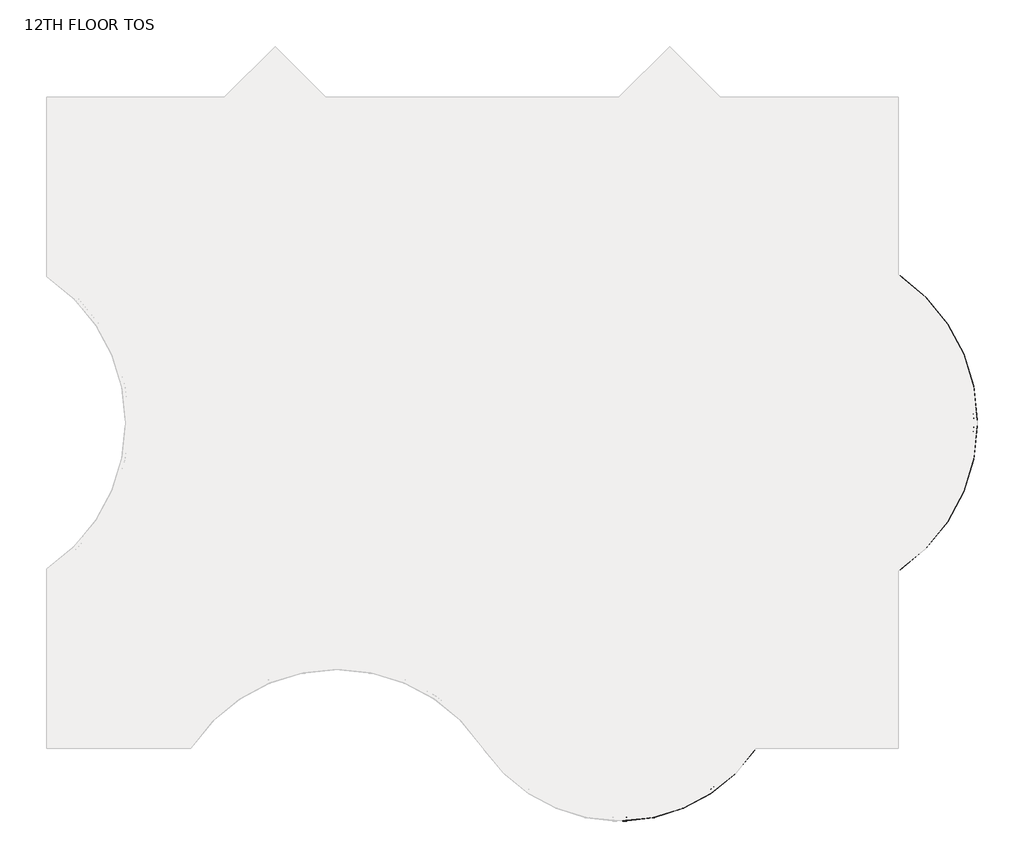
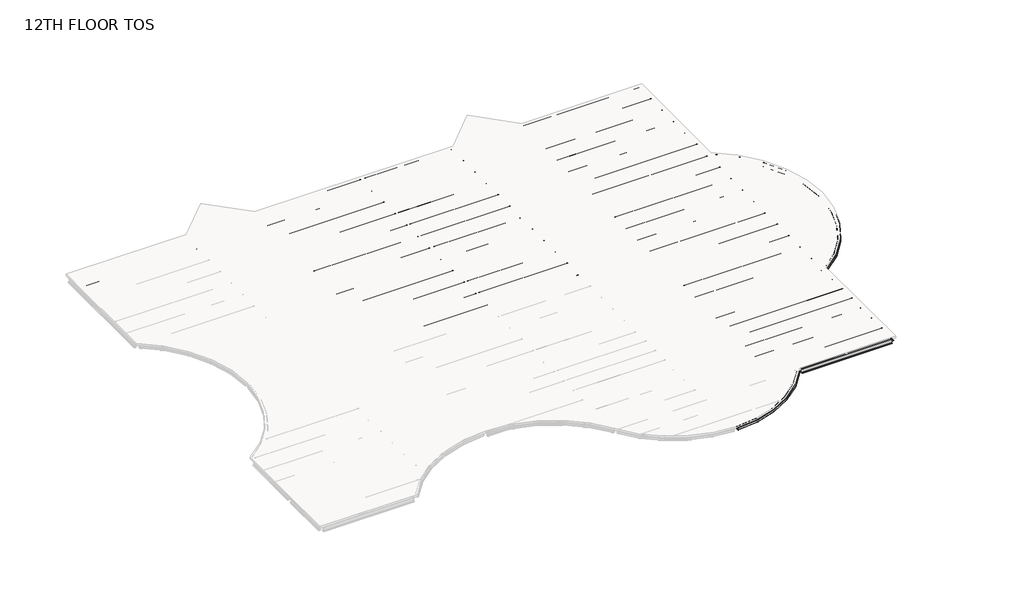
# One storey, part 2 of 2: 110 beams.
"""IFC4 building model written with IfcOpenShell, lengths in millimetres."""

from ifc_helpers import new_model, si_unit, origin, place, context, project, spatial, transform, mapped, element, save
from components import m_hss_square_hss203_2x203_2x9_5_28e91a4e, m_hss_square_hss203_2x203_2x9_5_f31329aa, m_hss_square_hss203_2x203_2x9_5_63507dff, ub_universal_beams_ub254x102x28_7812688d, ub_universal_beams_ub254x102x28_4a38c177, ub_universal_beams_ub305x165x40_c4d0385b, ub_universal_beams_ub305x165x40_19965e16, ub_universal_beams_ub305x165x40_d3abc31d, ub_universal_beams_ub305x165x40_0c73730f, ub_universal_beams_ub305x165x40_2a963f0c, ub_universal_beams_ub305x165x40_9ce7f2ee, ub_universal_beams_ub305x165x40_d184adfd, ub_universal_beams_ub305x165x40_bc7dc938, ub_universal_beams_ub305x165x40_b4233d25, ub_universal_beams_ub356x171x51_c708c058, ub_universal_beams_ub356x171x51_ef72dcdd, ub_universal_beams_ub356x171x51_10b3c54f, ub_universal_beams_ub356x171x51_4c9fd821, ub_universal_beams_ub356x171x51_d1a87c3c, ub_universal_beams_ub356x171x51_fa75724b, ub_universal_beams_ub356x171x51_68db896e, ub_universal_beams_ub356x171x51_c634c4a6, ub_universal_beams_ub356x171x51_995f1560, ub_universal_beams_ub356x171x51_dfc36663, ub_universal_beams_ub356x171x51_11d6b780, ub_universal_beams_ub356x171x51_76b2d20b, ub_universal_beams_ub356x171x51_145ecd4b, ub_universal_beams_ub356x171x51_c7dff8d2, ub_universal_beams_ub356x171x51_8a345439, ub_universal_beams_ub356x171x51_6da510e9, ub_universal_beams_ub356x171x51_e97f8d2e, ub_universal_beams_ub356x171x51_a38b99de, ub_universal_beams_ub356x171x51_d8f4cdde, ub_universal_beams_ub356x171x51_475301e6, ub_universal_beams_ub356x171x51_c03c70fb, ub_universal_beams_ub356x171x51_741bae58

model = new_model("IFC4")

# Units and contexts
model_context = context("Model", 3, world=origin())
ifc_project = project(units=[si_unit("LENGTHUNIT", "METRE", prefix="MILLI")], contexts=[model_context])

# Site, building, storey
site = spatial("IfcSite", under=ifc_project)
building = spatial("IfcBuilding", under=site)
storey = spatial("IfcBuildingStorey", under=building, Name="12TH FLOOR TOS", Elevation=54711.6)

# Beams
placement = place(None, origin())
m_hss_square_hss203_2x203_2x9_5_shape = m_hss_square_hss203_2x203_2x9_5_28e91a4e(model_context)
element("IfcBeam", 1, ObjectType="M_HSS Square : HSS203.2X203.2X9.5", at=placement, inside=storey, context=model_context, shape_type="MappedRepresentation", body=[
    mapped(m_hss_square_hss203_2x203_2x9_5_shape, transform((44027.575, 24539.575, 54610.1), x_axis=(0.8332810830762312, -0.5528495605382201, 0.0), y_axis=(0.5528495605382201, 0.8332810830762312, 0.0), z_axis=(0.0, 0.0, 1.0))),
])
m_hss_square_hss203_2x203_2x9_5_2_shape = m_hss_square_hss203_2x203_2x9_5_f31329aa(model_context)
element("IfcBeam", 2, ObjectType="M_HSS Square : HSS203.2X203.2X9.5", at=placement, inside=storey, context=model_context, shape_type="MappedRepresentation", body=[
    mapped(m_hss_square_hss203_2x203_2x9_5_2_shape, transform((44027.575, 9299.575, 54610.1), x_axis=(0.8332810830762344, 0.5528495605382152, 0.0), y_axis=(-0.5528495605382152, 0.8332810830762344, 0.0), z_axis=(0.0, 0.0, 1.0))),
])
m_hss_square_hss203_2x203_2x9_5_3_shape = m_hss_square_hss203_2x203_2x9_5_63507dff(model_context)
element("IfcBeam", 3, ObjectType="M_HSS Square : HSS203.2X203.2X9.5", at=placement, inside=storey, context=model_context, shape_type="MappedRepresentation", body=[
    mapped(m_hss_square_hss203_2x203_2x9_5_3_shape, transform((36716.575, 155.575, 54610.1), x_axis=(-0.5530174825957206, -0.8331696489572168, 0.0), y_axis=(0.8331696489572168, -0.5530174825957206, 0.0), z_axis=(0.0, 0.0, 1.0))),
])
ub_universal_beams_ub254x102x28_shape = ub_universal_beams_ub254x102x28_7812688d(model_context)
element("IfcBeam", 4, ObjectType="UB-Universal Beams : UB254x102x28", at=placement, inside=storey, context=model_context, shape_type="MappedRepresentation", body=[
    mapped(ub_universal_beams_ub254x102x28_shape, transform((10592.575, 34976.575, 54581.4), x_axis=(0.7071067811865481, 0.7071067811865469, 0.0), y_axis=(-0.7071067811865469, 0.7071067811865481, 0.0), z_axis=(0.0, 0.0, 1.0))),
])
element("IfcBeam", 5, ObjectType="UB-Universal Beams : UB254x102x28", at=placement, inside=storey, context=model_context, shape_type="MappedRepresentation", body=[
    mapped(ub_universal_beams_ub254x102x28_shape, transform((31004.575, 34976.575, 54581.4), x_axis=(0.7071067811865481, 0.7071067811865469, 0.0), y_axis=(-0.7071067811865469, 0.7071067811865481, 0.0), z_axis=(0.0, 0.0, 1.0))),
])
ub_universal_beams_ub254x102x28_2_shape = ub_universal_beams_ub254x102x28_4a38c177(model_context)
element("IfcBeam", 6, ObjectType="UB-Universal Beams : UB254x102x28", at=placement, inside=storey, context=model_context, shape_type="MappedRepresentation", body=[
    mapped(ub_universal_beams_ub254x102x28_2_shape, transform((13178.575, 34976.575, 54581.4), x_axis=(0.707106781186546, -0.707106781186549, 0.0), y_axis=(0.707106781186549, 0.707106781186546, 0.0), z_axis=(0.0, 0.0, 1.0))),
])
element("IfcBeam", 7, ObjectType="UB-Universal Beams : UB254x102x28", at=placement, inside=storey, context=model_context, shape_type="MappedRepresentation", body=[
    mapped(ub_universal_beams_ub254x102x28_2_shape, transform((33590.575, 34976.575, 54581.4), x_axis=(0.7071067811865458, -0.7071067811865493, 0.0), y_axis=(0.7071067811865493, 0.7071067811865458, 0.0), z_axis=(0.0, 0.0, 1.0))),
])
ub_universal_beams_ub305x165x40_shape = ub_universal_beams_ub305x165x40_c4d0385b(model_context)
element("IfcBeam", 8, ObjectType="UB-Universal Beams : UB305x165x40", at=placement, inside=storey, context=model_context, shape_type="MappedRepresentation", body=[
    mapped(ub_universal_beams_ub305x165x40_shape, transform((4727.575, 32159.575, 54559.9), x_axis=(1.0, 0.0, 0.0), y_axis=(0.0, 1.0, 0.0), z_axis=(0.0, 0.0, 1.0))),
])
element("IfcBeam", 9, ObjectType="UB-Universal Beams : UB305x165x40", at=placement, inside=storey, context=model_context, shape_type="MappedRepresentation", body=[
    mapped(ub_universal_beams_ub305x165x40_shape, transform((39455.575, 32159.575, 54559.9), x_axis=(1.0, 0.0, 0.0), y_axis=(0.0, 1.0, 0.0), z_axis=(0.0, 0.0, 1.0))),
])
element("IfcBeam", 10, ObjectType="UB-Universal Beams : UB305x165x40", at=placement, inside=storey, context=model_context, shape_type="MappedRepresentation", body=[
    mapped(ub_universal_beams_ub305x165x40_shape, transform((39455.575, 30635.575, 54559.9), x_axis=(1.0, 0.0, 0.0), y_axis=(0.0, 1.0, 0.0), z_axis=(0.0, 0.0, 1.0))),
])
element("IfcBeam", 11, ObjectType="UB-Universal Beams : UB305x165x40", at=placement, inside=storey, context=model_context, shape_type="MappedRepresentation", body=[
    mapped(ub_universal_beams_ub305x165x40_shape, transform((39455.575, 29111.575, 54559.9), x_axis=(1.0, 0.0, 0.0), y_axis=(0.0, 1.0, 0.0), z_axis=(0.0, 0.0, 1.0))),
])
element("IfcBeam", 12, ObjectType="UB-Universal Beams : UB305x165x40", at=placement, inside=storey, context=model_context, shape_type="MappedRepresentation", body=[
    mapped(ub_universal_beams_ub305x165x40_shape, transform((39455.575, 27587.575, 54559.9), x_axis=(1.0, 0.0, 0.0), y_axis=(0.0, 1.0, 0.0), z_axis=(0.0, 0.0, 1.0))),
])
element("IfcBeam", 13, ObjectType="UB-Universal Beams : UB305x165x40", at=placement, inside=storey, context=model_context, shape_type="MappedRepresentation", body=[
    mapped(ub_universal_beams_ub305x165x40_shape, transform((39455.575, 26063.575, 54559.9), x_axis=(1.0, 0.0, 0.0), y_axis=(0.0, 1.0, 0.0), z_axis=(0.0, 0.0, 1.0))),
])
element("IfcBeam", 14, ObjectType="UB-Universal Beams : UB305x165x40", at=placement, inside=storey, context=model_context, shape_type="MappedRepresentation", body=[
    mapped(ub_universal_beams_ub305x165x40_shape, transform((39455.575, 23015.575, 54559.9), x_axis=(1.0, 0.0, 0.0), y_axis=(0.0, 1.0, 0.0), z_axis=(0.0, 0.0, 1.0))),
])
element("IfcBeam", 15, ObjectType="UB-Universal Beams : UB305x165x40", at=placement, inside=storey, context=model_context, shape_type="MappedRepresentation", body=[
    mapped(ub_universal_beams_ub305x165x40_shape, transform((39455.575, 21491.575, 54559.9), x_axis=(1.0, 0.0, 0.0), y_axis=(0.0, 1.0, 0.0), z_axis=(0.0, 0.0, 1.0))),
])
element("IfcBeam", 16, ObjectType="UB-Universal Beams : UB305x165x40", at=placement, inside=storey, context=model_context, shape_type="MappedRepresentation", body=[
    mapped(ub_universal_beams_ub305x165x40_shape, transform((39455.575, 19967.575, 54559.9), x_axis=(1.0, 0.0, 0.0), y_axis=(0.0, 1.0, 0.0), z_axis=(0.0, 0.0, 1.0))),
])
element("IfcBeam", 17, ObjectType="UB-Universal Beams : UB305x165x40", at=placement, inside=storey, context=model_context, shape_type="MappedRepresentation", body=[
    mapped(ub_universal_beams_ub305x165x40_shape, transform((39455.575, 18443.575, 54559.9), x_axis=(1.0, 0.0, 0.0), y_axis=(0.0, 1.0, 0.0), z_axis=(0.0, 0.0, 1.0))),
])
element("IfcBeam", 18, ObjectType="UB-Universal Beams : UB305x165x40", at=placement, inside=storey, context=model_context, shape_type="MappedRepresentation", body=[
    mapped(ub_universal_beams_ub305x165x40_shape, transform((39455.575, 15395.575, 54559.9), x_axis=(1.0, 0.0, 0.0), y_axis=(0.0, 1.0, 0.0), z_axis=(0.0, 0.0, 1.0))),
])
element("IfcBeam", 19, ObjectType="UB-Universal Beams : UB305x165x40", at=placement, inside=storey, context=model_context, shape_type="MappedRepresentation", body=[
    mapped(ub_universal_beams_ub305x165x40_shape, transform((39455.575, 13871.575, 54559.9), x_axis=(1.0, 0.0, 0.0), y_axis=(0.0, 1.0, 0.0), z_axis=(0.0, 0.0, 1.0))),
])
element("IfcBeam", 20, ObjectType="UB-Universal Beams : UB305x165x40", at=placement, inside=storey, context=model_context, shape_type="MappedRepresentation", body=[
    mapped(ub_universal_beams_ub305x165x40_shape, transform((39455.575, 12347.575, 54559.9), x_axis=(1.0, 0.0, 0.0), y_axis=(0.0, 1.0, 0.0), z_axis=(0.0, 0.0, 1.0))),
])
element("IfcBeam", 21, ObjectType="UB-Universal Beams : UB305x165x40", at=placement, inside=storey, context=model_context, shape_type="MappedRepresentation", body=[
    mapped(ub_universal_beams_ub305x165x40_shape, transform((39455.575, 10823.575, 54559.9), x_axis=(1.0, 0.0, 0.0), y_axis=(0.0, 1.0, 0.0), z_axis=(0.0, 0.0, 1.0))),
])
element("IfcBeam", 22, ObjectType="UB-Universal Beams : UB305x165x40", at=placement, inside=storey, context=model_context, shape_type="MappedRepresentation", body=[
    mapped(ub_universal_beams_ub305x165x40_shape, transform((39455.575, 5508.325, 54559.9), x_axis=(-1.0, 0.0, 0.0), y_axis=(0.0, -1.0, 0.0), z_axis=(0.0, 0.0, 1.0))),
])
element("IfcBeam", 23, ObjectType="UB-Universal Beams : UB305x165x40", at=placement, inside=storey, context=model_context, shape_type="MappedRepresentation", body=[
    mapped(ub_universal_beams_ub305x165x40_shape, transform((39455.575, 6772.075, 54559.9), x_axis=(-1.0, 0.0, 0.0), y_axis=(0.0, -1.0, 0.0), z_axis=(0.0, 0.0, 1.0))),
])
element("IfcBeam", 24, ObjectType="UB-Universal Beams : UB305x165x40", at=placement, inside=storey, context=model_context, shape_type="MappedRepresentation", body=[
    mapped(ub_universal_beams_ub305x165x40_shape, transform((39455.575, 8035.825, 54559.9), x_axis=(-1.0, 0.0, 0.0), y_axis=(0.0, -1.0, 0.0), z_axis=(0.0, 0.0, 1.0))),
])
element("IfcBeam", 25, ObjectType="UB-Universal Beams : UB305x165x40", at=placement, inside=storey, context=model_context, shape_type="MappedRepresentation", body=[
    mapped(ub_universal_beams_ub305x165x40_shape, transform((39455.575, 1518.575, 54559.9), x_axis=(-1.0, 0.0, 0.0), y_axis=(0.0, -1.0, 0.0), z_axis=(0.0, 0.0, 1.0))),
])
element("IfcBeam", 26, ObjectType="UB-Universal Beams : UB305x165x40", at=placement, inside=storey, context=model_context, shape_type="MappedRepresentation", body=[
    mapped(ub_universal_beams_ub305x165x40_shape, transform((39455.575, 2881.575, 54559.9), x_axis=(-1.0, 0.0, 0.0), y_axis=(0.0, -1.0, 0.0), z_axis=(0.0, 0.0, 1.0))),
])
ub_universal_beams_ub305x165x40_2_shape = ub_universal_beams_ub305x165x40_19965e16(model_context)
element("IfcBeam", 27, ObjectType="UB-Universal Beams : UB305x165x40", at=placement, inside=storey, context=model_context, shape_type="MappedRepresentation", body=[
    mapped(ub_universal_beams_ub305x165x40_2_shape, transform((11885.575, 34803.325, 54559.9), x_axis=(1.0, 0.0, 0.0), y_axis=(0.0, 1.0, 0.0), z_axis=(0.0, 0.0, 1.0))),
])
element("IfcBeam", 28, ObjectType="UB-Universal Beams : UB305x165x40", at=placement, inside=storey, context=model_context, shape_type="MappedRepresentation", body=[
    mapped(ub_universal_beams_ub305x165x40_2_shape, transform((32297.575, 34803.325, 54559.9), x_axis=(1.0, 0.0, 0.0), y_axis=(0.0, 1.0, 0.0), z_axis=(0.0, 0.0, 1.0))),
])
ub_universal_beams_ub305x165x40_3_shape = ub_universal_beams_ub305x165x40_d3abc31d(model_context)
element("IfcBeam", 29, ObjectType="UB-Universal Beams : UB305x165x40", at=placement, inside=storey, context=model_context, shape_type="MappedRepresentation", body=[
    mapped(ub_universal_beams_ub305x165x40_3_shape, transform((11885.575, 33337.075, 54559.9), x_axis=(1.0, 0.0, 0.0), y_axis=(0.0, 1.0, 0.0), z_axis=(0.0, 0.0, 1.0))),
])
element("IfcBeam", 30, ObjectType="UB-Universal Beams : UB305x165x40", at=placement, inside=storey, context=model_context, shape_type="MappedRepresentation", body=[
    mapped(ub_universal_beams_ub305x165x40_3_shape, transform((11885.575, 31870.825, 54559.9), x_axis=(1.0, 0.0, 0.0), y_axis=(0.0, 1.0, 0.0), z_axis=(0.0, 0.0, 1.0))),
])
element("IfcBeam", 31, ObjectType="UB-Universal Beams : UB305x165x40", at=placement, inside=storey, context=model_context, shape_type="MappedRepresentation", body=[
    mapped(ub_universal_beams_ub305x165x40_3_shape, transform((11885.575, 30404.575, 54559.9), x_axis=(1.0, 0.0, 0.0), y_axis=(0.0, 1.0, 0.0), z_axis=(0.0, 0.0, 1.0))),
])
element("IfcBeam", 32, ObjectType="UB-Universal Beams : UB305x165x40", at=placement, inside=storey, context=model_context, shape_type="MappedRepresentation", body=[
    mapped(ub_universal_beams_ub305x165x40_3_shape, transform((32297.575, 33337.075, 54559.9), x_axis=(1.0, 0.0, 0.0), y_axis=(0.0, 1.0, 0.0), z_axis=(0.0, 0.0, 1.0))),
])
element("IfcBeam", 33, ObjectType="UB-Universal Beams : UB305x165x40", at=placement, inside=storey, context=model_context, shape_type="MappedRepresentation", body=[
    mapped(ub_universal_beams_ub305x165x40_3_shape, transform((32297.575, 31870.825, 54559.9), x_axis=(1.0, 0.0, 0.0), y_axis=(0.0, 1.0, 0.0), z_axis=(0.0, 0.0, 1.0))),
])
element("IfcBeam", 34, ObjectType="UB-Universal Beams : UB305x165x40", at=placement, inside=storey, context=model_context, shape_type="MappedRepresentation", body=[
    mapped(ub_universal_beams_ub305x165x40_3_shape, transform((32297.575, 30404.575, 54559.9), x_axis=(1.0, 0.0, 0.0), y_axis=(0.0, 1.0, 0.0), z_axis=(0.0, 0.0, 1.0))),
])
element("IfcBeam", 35, ObjectType="UB-Universal Beams : UB305x165x40", at=placement, inside=storey, context=model_context, shape_type="MappedRepresentation", body=[
    mapped(ub_universal_beams_ub305x165x40_3_shape, transform((32297.575, 28938.325, 54559.9), x_axis=(1.0, 0.0, 0.0), y_axis=(0.0, 1.0, 0.0), z_axis=(0.0, 0.0, 1.0))),
])
element("IfcBeam", 36, ObjectType="UB-Universal Beams : UB305x165x40", at=placement, inside=storey, context=model_context, shape_type="MappedRepresentation", body=[
    mapped(ub_universal_beams_ub305x165x40_3_shape, transform((32297.575, 27472.075, 54559.9), x_axis=(1.0, 0.0, 0.0), y_axis=(0.0, 1.0, 0.0), z_axis=(0.0, 0.0, 1.0))),
])
element("IfcBeam", 37, ObjectType="UB-Universal Beams : UB305x165x40", at=placement, inside=storey, context=model_context, shape_type="MappedRepresentation", body=[
    mapped(ub_universal_beams_ub305x165x40_3_shape, transform((32297.575, 26005.825, 54559.9), x_axis=(1.0, 0.0, 0.0), y_axis=(0.0, 1.0, 0.0), z_axis=(0.0, 0.0, 1.0))),
])
element("IfcBeam", 38, ObjectType="UB-Universal Beams : UB305x165x40", at=placement, inside=storey, context=model_context, shape_type="MappedRepresentation", body=[
    mapped(ub_universal_beams_ub305x165x40_3_shape, transform((32297.575, 1518.575, 54559.9), x_axis=(-1.0, 0.0, 0.0), y_axis=(0.0, -1.0, 0.0), z_axis=(0.0, 0.0, 1.0))),
])
element("IfcBeam", 39, ObjectType="UB-Universal Beams : UB305x165x40", at=placement, inside=storey, context=model_context, shape_type="MappedRepresentation", body=[
    mapped(ub_universal_beams_ub305x165x40_3_shape, transform((32297.575, 2881.575, 54559.9), x_axis=(-1.0, 0.0, 0.0), y_axis=(0.0, -1.0, 0.0), z_axis=(0.0, 0.0, 1.0))),
])
element("IfcBeam", 40, ObjectType="UB-Universal Beams : UB305x165x40", at=placement, inside=storey, context=model_context, shape_type="MappedRepresentation", body=[
    mapped(ub_universal_beams_ub305x165x40_3_shape, transform((32297.575, 5508.325, 54559.9), x_axis=(-1.0, 0.0, 0.0), y_axis=(0.0, -1.0, 0.0), z_axis=(0.0, 0.0, 1.0))),
])
element("IfcBeam", 41, ObjectType="UB-Universal Beams : UB305x165x40", at=placement, inside=storey, context=model_context, shape_type="MappedRepresentation", body=[
    mapped(ub_universal_beams_ub305x165x40_3_shape, transform((32297.575, 6772.075, 54559.9), x_axis=(-1.0, 0.0, 0.0), y_axis=(0.0, -1.0, 0.0), z_axis=(0.0, 0.0, 1.0))),
])
element("IfcBeam", 42, ObjectType="UB-Universal Beams : UB305x165x40", at=placement, inside=storey, context=model_context, shape_type="MappedRepresentation", body=[
    mapped(ub_universal_beams_ub305x165x40_3_shape, transform((32297.575, 8035.825, 54559.9), x_axis=(-1.0, 0.0, 0.0), y_axis=(0.0, -1.0, 0.0), z_axis=(0.0, 0.0, 1.0))),
])
element("IfcBeam", 43, ObjectType="UB-Universal Beams : UB305x165x40", at=placement, inside=storey, context=model_context, shape_type="MappedRepresentation", body=[
    mapped(ub_universal_beams_ub305x165x40_3_shape, transform((32297.575, 15395.575, 54559.9), x_axis=(1.0, 0.0, 0.0), y_axis=(0.0, 1.0, 0.0), z_axis=(0.0, 0.0, 1.0))),
])
element("IfcBeam", 44, ObjectType="UB-Universal Beams : UB305x165x40", at=placement, inside=storey, context=model_context, shape_type="MappedRepresentation", body=[
    mapped(ub_universal_beams_ub305x165x40_3_shape, transform((32297.575, 13871.575, 54559.9), x_axis=(1.0, 0.0, 0.0), y_axis=(0.0, 1.0, 0.0), z_axis=(0.0, 0.0, 1.0))),
])
element("IfcBeam", 45, ObjectType="UB-Universal Beams : UB305x165x40", at=placement, inside=storey, context=model_context, shape_type="MappedRepresentation", body=[
    mapped(ub_universal_beams_ub305x165x40_3_shape, transform((32297.575, 12347.575, 54559.9), x_axis=(1.0, 0.0, 0.0), y_axis=(0.0, 1.0, 0.0), z_axis=(0.0, 0.0, 1.0))),
])
element("IfcBeam", 46, ObjectType="UB-Universal Beams : UB305x165x40", at=placement, inside=storey, context=model_context, shape_type="MappedRepresentation", body=[
    mapped(ub_universal_beams_ub305x165x40_3_shape, transform((32297.575, 10823.575, 54559.9), x_axis=(1.0, 0.0, 0.0), y_axis=(0.0, 1.0, 0.0), z_axis=(0.0, 0.0, 1.0))),
])
element("IfcBeam", 47, ObjectType="UB-Universal Beams : UB305x165x40", at=placement, inside=storey, context=model_context, shape_type="MappedRepresentation", body=[
    mapped(ub_universal_beams_ub305x165x40_3_shape, transform((32297.575, 23015.575, 54559.9), x_axis=(1.0, 0.0, 0.0), y_axis=(0.0, 1.0, 0.0), z_axis=(0.0, 0.0, 1.0))),
])
element("IfcBeam", 48, ObjectType="UB-Universal Beams : UB305x165x40", at=placement, inside=storey, context=model_context, shape_type="MappedRepresentation", body=[
    mapped(ub_universal_beams_ub305x165x40_3_shape, transform((32297.575, 21491.575, 54559.9), x_axis=(1.0, 0.0, 0.0), y_axis=(0.0, 1.0, 0.0), z_axis=(0.0, 0.0, 1.0))),
])
element("IfcBeam", 49, ObjectType="UB-Universal Beams : UB305x165x40", at=placement, inside=storey, context=model_context, shape_type="MappedRepresentation", body=[
    mapped(ub_universal_beams_ub305x165x40_3_shape, transform((32297.575, 19967.575, 54559.9), x_axis=(1.0, 0.0, 0.0), y_axis=(0.0, 1.0, 0.0), z_axis=(0.0, 0.0, 1.0))),
])
element("IfcBeam", 50, ObjectType="UB-Universal Beams : UB305x165x40", at=placement, inside=storey, context=model_context, shape_type="MappedRepresentation", body=[
    mapped(ub_universal_beams_ub305x165x40_3_shape, transform((32297.575, 18443.575, 54559.9), x_axis=(1.0, 0.0, 0.0), y_axis=(0.0, 1.0, 0.0), z_axis=(0.0, 0.0, 1.0))),
])
ub_universal_beams_ub305x165x40_4_shape = ub_universal_beams_ub305x165x40_0c73730f(model_context)
element("IfcBeam", 51, ObjectType="UB-Universal Beams : UB305x165x40", at=placement, inside=storey, context=model_context, shape_type="MappedRepresentation", body=[
    mapped(ub_universal_beams_ub305x165x40_4_shape, transform((18591.075, 32159.575, 54559.9), x_axis=(1.0, 0.0, 0.0), y_axis=(0.0, 1.0, 0.0), z_axis=(0.0, 0.0, 1.0))),
])
element("IfcBeam", 52, ObjectType="UB-Universal Beams : UB305x165x40", at=placement, inside=storey, context=model_context, shape_type="MappedRepresentation", body=[
    mapped(ub_universal_beams_ub305x165x40_4_shape, transform((18591.075, 30635.575, 54559.9), x_axis=(1.0, 0.0, 0.0), y_axis=(0.0, 1.0, 0.0), z_axis=(0.0, 0.0, 1.0))),
])
element("IfcBeam", 53, ObjectType="UB-Universal Beams : UB305x165x40", at=placement, inside=storey, context=model_context, shape_type="MappedRepresentation", body=[
    mapped(ub_universal_beams_ub305x165x40_4_shape, transform((18591.075, 29111.575, 54559.9), x_axis=(1.0, 0.0, 0.0), y_axis=(0.0, 1.0, 0.0), z_axis=(0.0, 0.0, 1.0))),
])
element("IfcBeam", 54, ObjectType="UB-Universal Beams : UB305x165x40", at=placement, inside=storey, context=model_context, shape_type="MappedRepresentation", body=[
    mapped(ub_universal_beams_ub305x165x40_4_shape, transform((18591.075, 27587.575, 54559.9), x_axis=(1.0, 0.0, 0.0), y_axis=(0.0, 1.0, 0.0), z_axis=(0.0, 0.0, 1.0))),
])
element("IfcBeam", 55, ObjectType="UB-Universal Beams : UB305x165x40", at=placement, inside=storey, context=model_context, shape_type="MappedRepresentation", body=[
    mapped(ub_universal_beams_ub305x165x40_4_shape, transform((18591.075, 26063.575, 54559.9), x_axis=(1.0, 0.0, 0.0), y_axis=(0.0, 1.0, 0.0), z_axis=(0.0, 0.0, 1.0))),
])
element("IfcBeam", 56, ObjectType="UB-Universal Beams : UB305x165x40", at=placement, inside=storey, context=model_context, shape_type="MappedRepresentation", body=[
    mapped(ub_universal_beams_ub305x165x40_4_shape, transform((18591.075, 23015.575, 54559.9), x_axis=(1.0, 0.0, 0.0), y_axis=(0.0, 1.0, 0.0), z_axis=(0.0, 0.0, 1.0))),
])
element("IfcBeam", 57, ObjectType="UB-Universal Beams : UB305x165x40", at=placement, inside=storey, context=model_context, shape_type="MappedRepresentation", body=[
    mapped(ub_universal_beams_ub305x165x40_4_shape, transform((18591.075, 21491.575, 54559.9), x_axis=(1.0, 0.0, 0.0), y_axis=(0.0, 1.0, 0.0), z_axis=(0.0, 0.0, 1.0))),
])
element("IfcBeam", 58, ObjectType="UB-Universal Beams : UB305x165x40", at=placement, inside=storey, context=model_context, shape_type="MappedRepresentation", body=[
    mapped(ub_universal_beams_ub305x165x40_4_shape, transform((18591.075, 19967.575, 54559.9), x_axis=(1.0, 0.0, 0.0), y_axis=(0.0, 1.0, 0.0), z_axis=(0.0, 0.0, 1.0))),
])
element("IfcBeam", 59, ObjectType="UB-Universal Beams : UB305x165x40", at=placement, inside=storey, context=model_context, shape_type="MappedRepresentation", body=[
    mapped(ub_universal_beams_ub305x165x40_4_shape, transform((18591.075, 18443.575, 54559.9), x_axis=(1.0, 0.0, 0.0), y_axis=(0.0, 1.0, 0.0), z_axis=(0.0, 0.0, 1.0))),
])
ub_universal_beams_ub305x165x40_5_shape = ub_universal_beams_ub305x165x40_2a963f0c(model_context)
element("IfcBeam", 60, ObjectType="UB-Universal Beams : UB305x165x40", at=placement, inside=storey, context=model_context, shape_type="MappedRepresentation", body=[
    mapped(ub_universal_beams_ub305x165x40_5_shape, transform((26211.075, 32159.575, 54559.9), x_axis=(1.0, 0.0, 0.0), y_axis=(0.0, 1.0, 0.0), z_axis=(0.0, 0.0, 1.0))),
])
element("IfcBeam", 61, ObjectType="UB-Universal Beams : UB305x165x40", at=placement, inside=storey, context=model_context, shape_type="MappedRepresentation", body=[
    mapped(ub_universal_beams_ub305x165x40_5_shape, transform((26211.075, 30635.575, 54559.9), x_axis=(1.0, 0.0, 0.0), y_axis=(0.0, 1.0, 0.0), z_axis=(0.0, 0.0, 1.0))),
])
element("IfcBeam", 62, ObjectType="UB-Universal Beams : UB305x165x40", at=placement, inside=storey, context=model_context, shape_type="MappedRepresentation", body=[
    mapped(ub_universal_beams_ub305x165x40_5_shape, transform((26211.075, 29111.575, 54559.9), x_axis=(1.0, 0.0, 0.0), y_axis=(0.0, 1.0, 0.0), z_axis=(0.0, 0.0, 1.0))),
])
element("IfcBeam", 63, ObjectType="UB-Universal Beams : UB305x165x40", at=placement, inside=storey, context=model_context, shape_type="MappedRepresentation", body=[
    mapped(ub_universal_beams_ub305x165x40_5_shape, transform((26211.075, 27587.575, 54559.9), x_axis=(1.0, 0.0, 0.0), y_axis=(0.0, 1.0, 0.0), z_axis=(0.0, 0.0, 1.0))),
])
element("IfcBeam", 64, ObjectType="UB-Universal Beams : UB305x165x40", at=placement, inside=storey, context=model_context, shape_type="MappedRepresentation", body=[
    mapped(ub_universal_beams_ub305x165x40_5_shape, transform((26211.075, 26063.575, 54559.9), x_axis=(1.0, 0.0, 0.0), y_axis=(0.0, 1.0, 0.0), z_axis=(0.0, 0.0, 1.0))),
])
element("IfcBeam", 65, ObjectType="UB-Universal Beams : UB305x165x40", at=placement, inside=storey, context=model_context, shape_type="MappedRepresentation", body=[
    mapped(ub_universal_beams_ub305x165x40_5_shape, transform((26211.075, 23015.575, 54559.9), x_axis=(1.0, 0.0, 0.0), y_axis=(0.0, 1.0, 0.0), z_axis=(0.0, 0.0, 1.0))),
])
element("IfcBeam", 66, ObjectType="UB-Universal Beams : UB305x165x40", at=placement, inside=storey, context=model_context, shape_type="MappedRepresentation", body=[
    mapped(ub_universal_beams_ub305x165x40_5_shape, transform((26211.075, 21491.575, 54559.9), x_axis=(1.0, 0.0, 0.0), y_axis=(0.0, 1.0, 0.0), z_axis=(0.0, 0.0, 1.0))),
])
element("IfcBeam", 67, ObjectType="UB-Universal Beams : UB305x165x40", at=placement, inside=storey, context=model_context, shape_type="MappedRepresentation", body=[
    mapped(ub_universal_beams_ub305x165x40_5_shape, transform((26211.075, 19967.575, 54559.9), x_axis=(1.0, 0.0, 0.0), y_axis=(0.0, 1.0, 0.0), z_axis=(0.0, 0.0, 1.0))),
])
element("IfcBeam", 68, ObjectType="UB-Universal Beams : UB305x165x40", at=placement, inside=storey, context=model_context, shape_type="MappedRepresentation", body=[
    mapped(ub_universal_beams_ub305x165x40_5_shape, transform((26211.075, 18443.575, 54559.9), x_axis=(1.0, 0.0, 0.0), y_axis=(0.0, 1.0, 0.0), z_axis=(0.0, 0.0, 1.0))),
])
ub_universal_beams_ub305x165x40_6_shape = ub_universal_beams_ub305x165x40_9ce7f2ee(model_context)
element("IfcBeam", 69, ObjectType="UB-Universal Beams : UB305x165x40", at=placement, inside=storey, context=model_context, shape_type="MappedRepresentation", body=[
    mapped(ub_universal_beams_ub305x165x40_6_shape, transform((44907.9405309, 23015.575, 54559.9), x_axis=(1.0, 0.0, 0.0), y_axis=(0.0, 1.0, 0.0), z_axis=(0.0, 0.0, 1.0))),
])
element("IfcBeam", 70, ObjectType="UB-Universal Beams : UB305x165x40", at=placement, inside=storey, context=model_context, shape_type="MappedRepresentation", body=[
    mapped(ub_universal_beams_ub305x165x40_6_shape, transform((44907.9405309, 10823.575, 54559.9), x_axis=(1.0, 0.0, 0.0), y_axis=(0.0, 1.0, 0.0), z_axis=(0.0, 0.0, 1.0))),
])
ub_universal_beams_ub305x165x40_7_shape = ub_universal_beams_ub305x165x40_d184adfd(model_context)
element("IfcBeam", 71, ObjectType="UB-Universal Beams : UB305x165x40", at=placement, inside=storey, context=model_context, shape_type="MappedRepresentation", body=[
    mapped(ub_universal_beams_ub305x165x40_7_shape, transform((45459.5874928, 21491.575, 54559.9), x_axis=(1.0, 0.0, 0.0), y_axis=(0.0, 1.0, 0.0), z_axis=(0.0, 0.0, 1.0))),
])
element("IfcBeam", 72, ObjectType="UB-Universal Beams : UB305x165x40", at=placement, inside=storey, context=model_context, shape_type="MappedRepresentation", body=[
    mapped(ub_universal_beams_ub305x165x40_7_shape, transform((45459.5874928, 12347.575, 54559.9), x_axis=(1.0, 0.0, 0.0), y_axis=(0.0, 1.0, 0.0), z_axis=(0.0, 0.0, 1.0))),
])
ub_universal_beams_ub305x165x40_8_shape = ub_universal_beams_ub305x165x40_bc7dc938(model_context)
element("IfcBeam", 73, ObjectType="UB-Universal Beams : UB305x165x40", at=placement, inside=storey, context=model_context, shape_type="MappedRepresentation", body=[
    mapped(ub_universal_beams_ub305x165x40_8_shape, transform((45810.6153272, 19967.575, 54559.9), x_axis=(1.0, 0.0, 0.0), y_axis=(0.0, 1.0, 0.0), z_axis=(0.0, 0.0, 1.0))),
])
element("IfcBeam", 74, ObjectType="UB-Universal Beams : UB305x165x40", at=placement, inside=storey, context=model_context, shape_type="MappedRepresentation", body=[
    mapped(ub_universal_beams_ub305x165x40_8_shape, transform((45810.6153272, 13871.575, 54559.9), x_axis=(1.0, 0.0, 0.0), y_axis=(0.0, 1.0, 0.0), z_axis=(0.0, 0.0, 1.0))),
])
ub_universal_beams_ub305x165x40_9_shape = ub_universal_beams_ub305x165x40_b4233d25(model_context)
element("IfcBeam", 75, ObjectType="UB-Universal Beams : UB305x165x40", at=placement, inside=storey, context=model_context, shape_type="MappedRepresentation", body=[
    mapped(ub_universal_beams_ub305x165x40_9_shape, transform((46008.1318611, 18443.575, 54559.9), x_axis=(1.0, 0.0, 0.0), y_axis=(0.0, 1.0, 0.0), z_axis=(0.0, 0.0, 1.0))),
])
element("IfcBeam", 76, ObjectType="UB-Universal Beams : UB305x165x40", at=placement, inside=storey, context=model_context, shape_type="MappedRepresentation", body=[
    mapped(ub_universal_beams_ub305x165x40_9_shape, transform((46008.1318611, 15395.575, 54559.9), x_axis=(1.0, 0.0, 0.0), y_axis=(0.0, 1.0, 0.0), z_axis=(0.0, 0.0, 1.0))),
])
ub_universal_beams_ub356x171x51_shape = ub_universal_beams_ub356x171x51_c708c058(model_context)
element("IfcBeam", 77, ObjectType="UB-Universal Beams : UB356x171x51", at=placement, inside=storey, context=model_context, shape_type="MappedRepresentation", body=[
    mapped(ub_universal_beams_ub356x171x51_shape, transform((2200.075, 33683.575, 54534.1), x_axis=(1.0, 0.0, 0.0), y_axis=(0.0, 1.0, 0.0), z_axis=(0.0, 0.0, 1.0))),
])
ub_universal_beams_ub356x171x51_2_shape = ub_universal_beams_ub356x171x51_ef72dcdd(model_context)
element("IfcBeam", 78, ObjectType="UB-Universal Beams : UB356x171x51", at=placement, inside=storey, context=model_context, shape_type="MappedRepresentation", body=[
    mapped(ub_universal_beams_ub356x171x51_2_shape, transform((6772.075, 33683.575, 54534.1), x_axis=(1.0, 0.0, 0.0), y_axis=(0.0, 1.0, 0.0), z_axis=(0.0, 0.0, 1.0))),
])
element("IfcBeam", 79, ObjectType="UB-Universal Beams : UB356x171x51", at=placement, inside=storey, context=model_context, shape_type="MappedRepresentation", body=[
    mapped(ub_universal_beams_ub356x171x51_2_shape, transform((34883.575, 6772.075, 54534.1), x_axis=(0.0, -1.0, 0.0), y_axis=(1.0, 0.0, 0.0), z_axis=(0.0, 0.0, 1.0))),
])
ub_universal_beams_ub356x171x51_3_shape = ub_universal_beams_ub356x171x51_10b3c54f(model_context)
element("IfcBeam", 80, ObjectType="UB-Universal Beams : UB356x171x51", at=placement, inside=storey, context=model_context, shape_type="MappedRepresentation", body=[
    mapped(ub_universal_beams_ub356x171x51_3_shape, transform((18591.075, 33683.575, 54534.1), x_axis=(1.0, 0.0, 0.0), y_axis=(0.0, 1.0, 0.0), z_axis=(0.0, 0.0, 1.0))),
])
ub_universal_beams_ub356x171x51_4_shape = ub_universal_beams_ub356x171x51_4c9fd821(model_context)
element("IfcBeam", 81, ObjectType="UB-Universal Beams : UB356x171x51", at=placement, inside=storey, context=model_context, shape_type="MappedRepresentation", body=[
    mapped(ub_universal_beams_ub356x171x51_4_shape, transform((26211.075, 33683.575, 54534.1), x_axis=(1.0, 0.0, 0.0), y_axis=(0.0, 1.0, 0.0), z_axis=(0.0, 0.0, 1.0))),
])
ub_universal_beams_ub356x171x51_5_shape = ub_universal_beams_ub356x171x51_d1a87c3c(model_context)
element("IfcBeam", 82, ObjectType="UB-Universal Beams : UB356x171x51", at=placement, inside=storey, context=model_context, shape_type="MappedRepresentation", body=[
    mapped(ub_universal_beams_ub356x171x51_5_shape, transform((39455.575, 33683.575, 54534.1), x_axis=(1.0, 0.0, 0.0), y_axis=(0.0, 1.0, 0.0), z_axis=(0.0, 0.0, 1.0))),
])
ub_universal_beams_ub356x171x51_6_shape = ub_universal_beams_ub356x171x51_fa75724b(model_context)
element("IfcBeam", 83, ObjectType="UB-Universal Beams : UB356x171x51", at=placement, inside=storey, context=model_context, shape_type="MappedRepresentation", body=[
    mapped(ub_universal_beams_ub356x171x51_6_shape, transform((44027.575, 29111.575, 54534.1), x_axis=(0.0, -1.0, 0.0), y_axis=(1.0, 0.0, 0.0), z_axis=(0.0, 0.0, 1.0))),
])
ub_universal_beams_ub356x171x51_7_shape = ub_universal_beams_ub356x171x51_68db896e(model_context)
element("IfcBeam", 84, ObjectType="UB-Universal Beams : UB356x171x51", at=placement, inside=storey, context=model_context, shape_type="MappedRepresentation", body=[
    mapped(ub_universal_beams_ub356x171x51_7_shape, transform((44027.575, 6772.075, 54534.1), x_axis=(0.0, -1.0, 0.0), y_axis=(1.0, 0.0, 0.0), z_axis=(0.0, 0.0, 1.0))),
])
ub_universal_beams_ub356x171x51_8_shape = ub_universal_beams_ub356x171x51_c634c4a6(model_context)
element("IfcBeam", 85, ObjectType="UB-Universal Beams : UB356x171x51", at=placement, inside=storey, context=model_context, shape_type="MappedRepresentation", body=[
    mapped(ub_universal_beams_ub356x171x51_8_shape, transform((44027.575, 2200.075, 54534.1), x_axis=(0.0, -1.0, 0.0), y_axis=(1.0, 0.0, 0.0), z_axis=(0.0, 0.0, 1.0))),
])
ub_universal_beams_ub356x171x51_9_shape = ub_universal_beams_ub356x171x51_995f1560(model_context)
element("IfcBeam", 86, ObjectType="UB-Universal Beams : UB356x171x51", at=placement, inside=storey, context=model_context, shape_type="MappedRepresentation", body=[
    mapped(ub_universal_beams_ub356x171x51_9_shape, transform((40372.075, 155.575, 54534.1), x_axis=(-1.0, 0.0, 0.0), y_axis=(0.0, -1.0, 0.0), z_axis=(0.0, 0.0, 1.0))),
])
ub_universal_beams_ub356x171x51_10_shape = ub_universal_beams_ub356x171x51_dfc36663(model_context)
element("IfcBeam", 87, ObjectType="UB-Universal Beams : UB356x171x51", at=placement, inside=storey, context=model_context, shape_type="MappedRepresentation", body=[
    mapped(ub_universal_beams_ub356x171x51_10_shape, transform((46072.075, 16919.575, 54534.1), x_axis=(1.0, 0.0, 0.0), y_axis=(0.0, 1.0, 0.0), z_axis=(0.0, 0.0, 1.0))),
])
ub_universal_beams_ub356x171x51_11_shape = ub_universal_beams_ub356x171x51_11d6b780(model_context)
element("IfcBeam", 88, ObjectType="UB-Universal Beams : UB356x171x51", at=placement, inside=storey, context=model_context, shape_type="MappedRepresentation", body=[
    mapped(ub_universal_beams_ub356x171x51_11_shape, transform((32297.575, 24539.575, 54534.1), x_axis=(1.0, 0.0, 0.0), y_axis=(0.0, 1.0, 0.0), z_axis=(0.0, 0.0, 1.0))),
])
element("IfcBeam", 89, ObjectType="UB-Universal Beams : UB356x171x51", at=placement, inside=storey, context=model_context, shape_type="MappedRepresentation", body=[
    mapped(ub_universal_beams_ub356x171x51_11_shape, transform((32297.575, 9299.575, 54534.1), x_axis=(-1.0, 0.0, 0.0), y_axis=(0.0, -1.0, 0.0), z_axis=(0.0, 0.0, 1.0))),
])
element("IfcBeam", 90, ObjectType="UB-Universal Beams : UB356x171x51", at=placement, inside=storey, context=model_context, shape_type="MappedRepresentation", body=[
    mapped(ub_universal_beams_ub356x171x51_11_shape, transform((32297.575, 16919.575, 54534.1), x_axis=(1.0, 0.0, 0.0), y_axis=(0.0, 1.0, 0.0), z_axis=(0.0, 0.0, 1.0))),
])
element("IfcBeam", 91, ObjectType="UB-Universal Beams : UB356x171x51", at=placement, inside=storey, context=model_context, shape_type="MappedRepresentation", body=[
    mapped(ub_universal_beams_ub356x171x51_11_shape, transform((32297.575, 4244.575, 54534.1), x_axis=(-1.0, 0.0, 0.0), y_axis=(0.0, -1.0, 0.0), z_axis=(0.0, 0.0, 1.0))),
])
ub_universal_beams_ub356x171x51_12_shape = ub_universal_beams_ub356x171x51_76b2d20b(model_context)
element("IfcBeam", 92, ObjectType="UB-Universal Beams : UB356x171x51", at=placement, inside=storey, context=model_context, shape_type="MappedRepresentation", body=[
    mapped(ub_universal_beams_ub356x171x51_12_shape, transform((18591.075, 24539.575, 54534.1), x_axis=(1.0, 0.0, 0.0), y_axis=(0.0, 1.0, 0.0), z_axis=(0.0, 0.0, 1.0))),
])
element("IfcBeam", 93, ObjectType="UB-Universal Beams : UB356x171x51", at=placement, inside=storey, context=model_context, shape_type="MappedRepresentation", body=[
    mapped(ub_universal_beams_ub356x171x51_12_shape, transform((18591.075, 16919.575, 54534.1), x_axis=(1.0, 0.0, 0.0), y_axis=(0.0, 1.0, 0.0), z_axis=(0.0, 0.0, 1.0))),
])
ub_universal_beams_ub356x171x51_13_shape = ub_universal_beams_ub356x171x51_145ecd4b(model_context)
element("IfcBeam", 94, ObjectType="UB-Universal Beams : UB356x171x51", at=placement, inside=storey, context=model_context, shape_type="MappedRepresentation", body=[
    mapped(ub_universal_beams_ub356x171x51_13_shape, transform((26211.075, 24539.575, 54534.1), x_axis=(1.0, 0.0, 0.0), y_axis=(0.0, 1.0, 0.0), z_axis=(0.0, 0.0, 1.0))),
])
element("IfcBeam", 95, ObjectType="UB-Universal Beams : UB356x171x51", at=placement, inside=storey, context=model_context, shape_type="MappedRepresentation", body=[
    mapped(ub_universal_beams_ub356x171x51_13_shape, transform((26211.075, 16919.575, 54534.1), x_axis=(1.0, 0.0, 0.0), y_axis=(0.0, 1.0, 0.0), z_axis=(0.0, 0.0, 1.0))),
])
ub_universal_beams_ub356x171x51_14_shape = ub_universal_beams_ub356x171x51_c7dff8d2(model_context)
element("IfcBeam", 96, ObjectType="UB-Universal Beams : UB356x171x51", at=placement, inside=storey, context=model_context, shape_type="MappedRepresentation", body=[
    mapped(ub_universal_beams_ub356x171x51_14_shape, transform((39455.575, 24539.575, 54534.1), x_axis=(1.0, 0.0, 0.0), y_axis=(0.0, 1.0, 0.0), z_axis=(0.0, 0.0, 1.0))),
])
ub_universal_beams_ub356x171x51_15_shape = ub_universal_beams_ub356x171x51_8a345439(model_context)
element("IfcBeam", 97, ObjectType="UB-Universal Beams : UB356x171x51", at=placement, inside=storey, context=model_context, shape_type="MappedRepresentation", body=[
    mapped(ub_universal_beams_ub356x171x51_15_shape, transform((44027.575, 20729.575, 54534.1), x_axis=(0.0, -1.0, 0.0), y_axis=(1.0, 0.0, 0.0), z_axis=(0.0, 0.0, 1.0))),
])
ub_universal_beams_ub356x171x51_16_shape = ub_universal_beams_ub356x171x51_6da510e9(model_context)
element("IfcBeam", 98, ObjectType="UB-Universal Beams : UB356x171x51", at=placement, inside=storey, context=model_context, shape_type="MappedRepresentation", body=[
    mapped(ub_universal_beams_ub356x171x51_16_shape, transform((44027.575, 13109.575, 54534.1), x_axis=(0.0, -1.0, 0.0), y_axis=(1.0, 0.0, 0.0), z_axis=(0.0, 0.0, 1.0))),
])
ub_universal_beams_ub356x171x51_17_shape = ub_universal_beams_ub356x171x51_e97f8d2e(model_context)
element("IfcBeam", 99, ObjectType="UB-Universal Beams : UB356x171x51", at=placement, inside=storey, context=model_context, shape_type="MappedRepresentation", body=[
    mapped(ub_universal_beams_ub356x171x51_17_shape, transform((39455.575, 9299.575, 54534.1), x_axis=(-1.0, 0.0, 0.0), y_axis=(0.0, -1.0, 0.0), z_axis=(0.0, 0.0, 1.0))),
])
ub_universal_beams_ub356x171x51_18_shape = ub_universal_beams_ub356x171x51_a38b99de(model_context)
element("IfcBeam", 100, ObjectType="UB-Universal Beams : UB356x171x51", at=placement, inside=storey, context=model_context, shape_type="MappedRepresentation", body=[
    mapped(ub_universal_beams_ub356x171x51_18_shape, transform((34883.575, 20729.575, 54534.1), x_axis=(0.0, -1.0, 0.0), y_axis=(1.0, 0.0, 0.0), z_axis=(0.0, 0.0, 1.0))),
])
element("IfcBeam", 101, ObjectType="UB-Universal Beams : UB356x171x51", at=placement, inside=storey, context=model_context, shape_type="MappedRepresentation", body=[
    mapped(ub_universal_beams_ub356x171x51_18_shape, transform((34883.575, 13109.575, 54534.1), x_axis=(0.0, -1.0, 0.0), y_axis=(1.0, 0.0, 0.0), z_axis=(0.0, 0.0, 1.0))),
])
element("IfcBeam", 102, ObjectType="UB-Universal Beams : UB356x171x51", at=placement, inside=storey, context=model_context, shape_type="MappedRepresentation", body=[
    mapped(ub_universal_beams_ub356x171x51_18_shape, transform((22710.575, 20729.575, 54534.1), x_axis=(0.0, -1.0, 0.0), y_axis=(1.0, 0.0, 0.0), z_axis=(0.0, 0.0, 1.0))),
])
element("IfcBeam", 103, ObjectType="UB-Universal Beams : UB356x171x51", at=placement, inside=storey, context=model_context, shape_type="MappedRepresentation", body=[
    mapped(ub_universal_beams_ub356x171x51_18_shape, transform((29711.575, 20729.575, 54534.1), x_axis=(0.0, 1.0, 0.0), y_axis=(-1.0, 0.0, 0.0), z_axis=(0.0, 0.0, 1.0))),
])
ub_universal_beams_ub356x171x51_19_shape = ub_universal_beams_ub356x171x51_d8f4cdde(model_context)
element("IfcBeam", 104, ObjectType="UB-Universal Beams : UB356x171x51", at=placement, inside=storey, context=model_context, shape_type="MappedRepresentation", body=[
    mapped(ub_universal_beams_ub356x171x51_19_shape, transform((29711.575, 29111.575, 54534.1), x_axis=(0.0, 1.0, 0.0), y_axis=(-1.0, 0.0, 0.0), z_axis=(0.0, 0.0, 1.0))),
])
ub_universal_beams_ub356x171x51_20_shape = ub_universal_beams_ub356x171x51_475301e6(model_context)
element("IfcBeam", 105, ObjectType="UB-Universal Beams : UB356x171x51", at=placement, inside=storey, context=model_context, shape_type="MappedRepresentation", body=[
    mapped(ub_universal_beams_ub356x171x51_20_shape, transform((39455.575, 16919.575, 54534.1), x_axis=(1.0, 0.0, 0.0), y_axis=(0.0, 1.0, 0.0), z_axis=(0.0, 0.0, 1.0))),
])
element("IfcBeam", 106, ObjectType="UB-Universal Beams : UB356x171x51", at=placement, inside=storey, context=model_context, shape_type="MappedRepresentation", body=[
    mapped(ub_universal_beams_ub356x171x51_20_shape, transform((39455.575, 4244.575, 54534.1), x_axis=(-1.0, 0.0, 0.0), y_axis=(0.0, -1.0, 0.0), z_axis=(0.0, 0.0, 1.0))),
])
ub_universal_beams_ub356x171x51_21_shape = ub_universal_beams_ub356x171x51_c03c70fb(model_context)
element("IfcBeam", 107, ObjectType="UB-Universal Beams : UB356x171x51", at=placement, inside=storey, context=model_context, shape_type="MappedRepresentation", body=[
    mapped(ub_universal_beams_ub356x171x51_21_shape, transform((34883.575, 29111.575, 54534.1), x_axis=(0.0, -1.0, 0.0), y_axis=(1.0, 0.0, 0.0), z_axis=(0.0, 0.0, 1.0))),
])
element("IfcBeam", 108, ObjectType="UB-Universal Beams : UB356x171x51", at=placement, inside=storey, context=model_context, shape_type="MappedRepresentation", body=[
    mapped(ub_universal_beams_ub356x171x51_21_shape, transform((14471.575, 29111.575, 54534.1), x_axis=(0.0, -1.0, 0.0), y_axis=(1.0, 0.0, 0.0), z_axis=(0.0, 0.0, 1.0))),
])
element("IfcBeam", 109, ObjectType="UB-Universal Beams : UB356x171x51", at=placement, inside=storey, context=model_context, shape_type="MappedRepresentation", body=[
    mapped(ub_universal_beams_ub356x171x51_21_shape, transform((22710.575, 29111.575, 54534.1), x_axis=(0.0, -1.0, 0.0), y_axis=(1.0, 0.0, 0.0), z_axis=(0.0, 0.0, 1.0))),
])
ub_universal_beams_ub356x171x51_22_shape = ub_universal_beams_ub356x171x51_741bae58(model_context)
element("IfcBeam", 110, ObjectType="UB-Universal Beams : UB356x171x51", at=placement, inside=storey, context=model_context, shape_type="MappedRepresentation", body=[
    mapped(ub_universal_beams_ub356x171x51_22_shape, transform((34883.575, 2200.075, 54534.1), x_axis=(0.0, -1.0, 0.0), y_axis=(1.0, 0.0, 0.0), z_axis=(0.0, 0.0, 1.0))),
])

save(model, "model.ifc")
